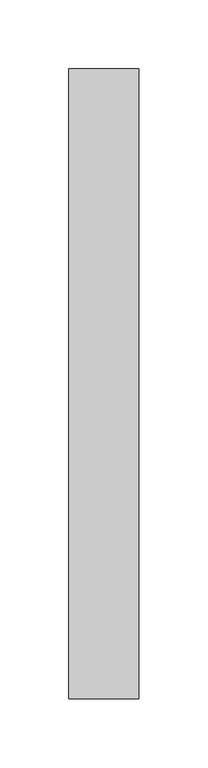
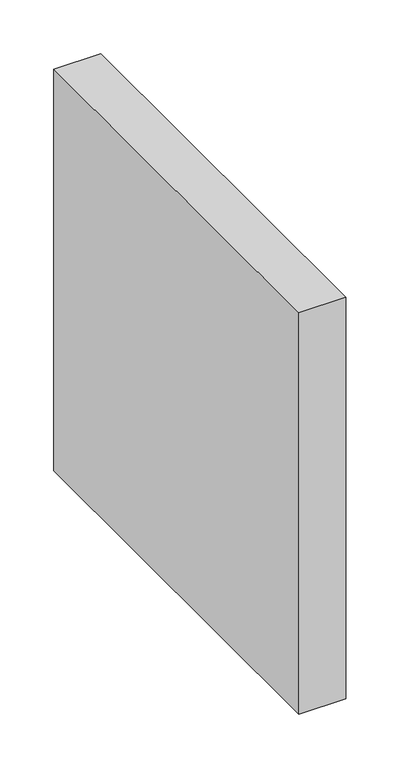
"""IFC4 building model written with IfcOpenShell, lengths in millimetres: proxy geometry, QUADRATURE^FIXED TOP-METAL-CANTILEVER BRACKET."""

from ifc_helpers import new_model, si_unit, frame, origin, place, context, project, spatial, polyline, outline, extrude, source, transform, mapped, element, save


def generic_models_1866fcce(model_context):
    return source(origin(), model_context, "Body", "SweptSolid", [
        extrude(outline(polyline([(0.0, 0.0), (0.0, 457.2), (50.8, 457.2), (50.8, 0.0), (0.0, 0.0)])), frame((0.0, 0.0, -457.2), z_axis=(0.0, 0.0, 1.0), x_axis=(1.0, 0.0, 0.0)), (0.0, 0.0, 1.0), 457.2),
    ])


if __name__ == "__main__":
    model = new_model("IFC4")
    model_context = context("Model", 3, world=origin())
    ifc_project = project(units=[si_unit("LENGTHUNIT", "METRE", prefix="MILLI")], contexts=[model_context])
    site = spatial("IfcSite", under=ifc_project)
    building = spatial("IfcBuilding", under=site)
    placement = place(None, origin())
    generic_models_shape = generic_models_1866fcce(model_context)
    element("IfcBuildingElementProxy", 1, Name="QUADRATURE^FIXED TOP-METAL-CANTILEVER BRACKET", ObjectType="QUADRATURE^FIXED TOP-METAL-CANTILEVER BRACKET", at=placement, inside=building, context=model_context, shape_type="MappedRepresentation", body=[
        mapped(generic_models_shape, transform((0.0, 0.0, 0.0), x_axis=(1.0, 0.0, 0.0), y_axis=(0.0, 1.0, 0.0), z_axis=(0.0, 0.0, 1.0))),
    ])
    save(model, "model.ifc")
